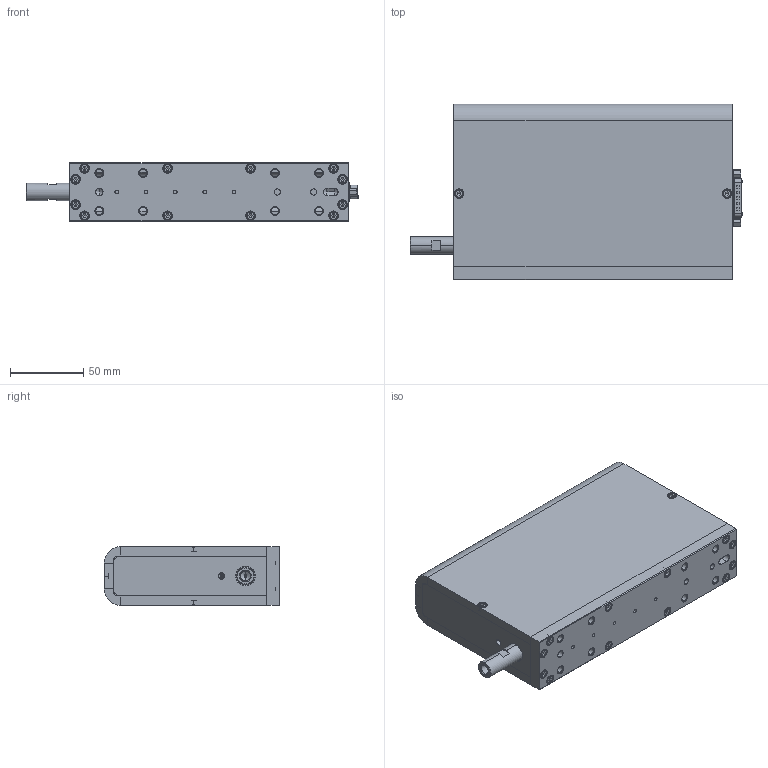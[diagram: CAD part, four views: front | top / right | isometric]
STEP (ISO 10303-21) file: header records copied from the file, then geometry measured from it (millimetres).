
FILE_DESCRIPTION (( 'STEP AP203' ), '1' );
FILE_NAME ('LDL40-050-35-3F_C(3d).STEP', '2021-11-24T18:05:28', ( '' ), ( '' ), 'SwSTEP 2.0', 'SolidWorks 2020', '' );
FILE_SCHEMA (( 'CONFIG_CONTROL_DESIGN' ));
Length unit declared in the file: millimetre
Products named in the file (1): LDL40-050-35-3F_C(3d)
Bounding box: 226.7 x 120 x 40 mm (x, y, z)
Surface area: 148909.3 mm2 (no closed solid volume)
Topology: 0 solids, 87 shells, 1720 faces, 5460 edges, 3791 vertices
Faces by surface type: plane 736, cylinder 525, cone 365, torus 60, bspline 34
Entity records: 68531 total; most frequent: CARTESIAN_POINT 22307, DIRECTION 9239, ORIENTED_EDGE 8956, EDGE_CURVE 5374, VERTEX_POINT 3791, AXIS2_PLACEMENT_3D 3226, VECTOR 2787, LINE 2787
